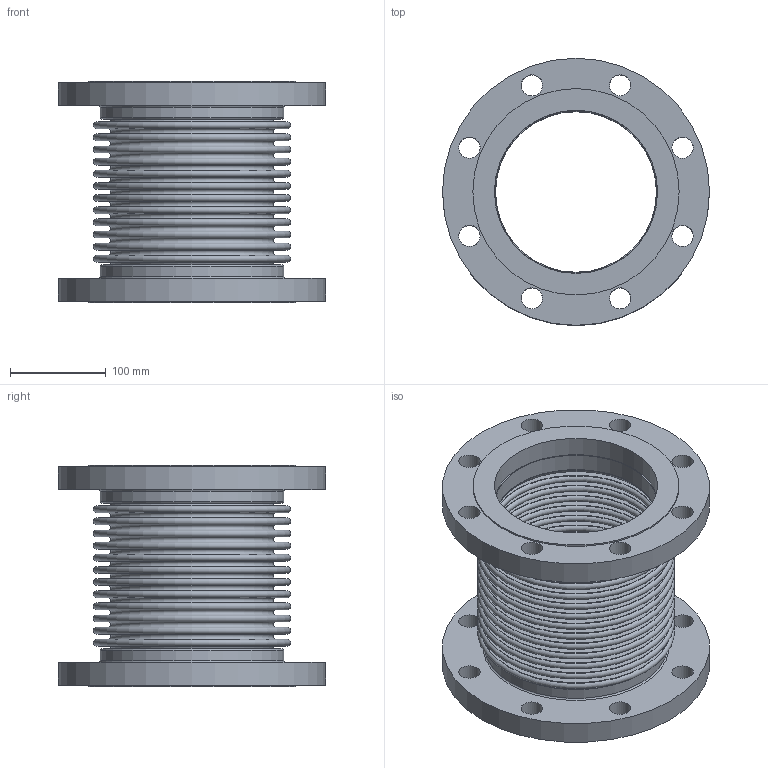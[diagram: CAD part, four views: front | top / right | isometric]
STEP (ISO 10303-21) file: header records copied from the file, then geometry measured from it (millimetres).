
FILE_DESCRIPTION(/* description */ ('EXPANSION JOINT,SINGLE, FLANGED ENDS,6 INCH NOMINAL','CAx-IF Rec.Pracs.---Representation and Presentation of Product Manufacturing Information (PMI)---4.0---2014-10-13'),/* implementation_level */ '2;1');
FILE_NAME(/* name */ 'US-06-12-85L-FLANGED ENDS.stp',/* time_stamp */ '2026-07-31T17:08:11-05:00',/* author */ ('Guadalupe'),/* organization */ (''),/* preprocessor_version */ 'ST-DEVELOPER v20.1',/* originating_system */ 'Autodesk Inventor 2026',/* authorisation */ '');
FILE_SCHEMA (('AP242_MANAGED_MODEL_BASED_3D_ENGINEERING_MIM_LF { 1 0 10303 442 2 1 4 }'));
Length unit declared in the file: inch
Products named in the file (3): 06-85L; 06-85L-02; 06-85L-01
Assembly tree (3 placements, depth 2):
  06-85L
    06-85L-02  x2
    06-85L-01
Bounding box: 279.4 x 279.4 x 231.65 mm (x, y, z)
Volume: 2152888.4 mm3; surface area: 931915.8 mm2
Topology: 5 solids, 5 shells, 144 faces, 246 edges, 164 vertices
Faces by surface type: plane 62, torus 54, cylinder 28
Full cylindrical faces by diameter (mm): 22.225 x16, 168.275 x2, 169.799 x2, 170.688 x2, 192.024 x2, 215.9 x2, 279.4 x2
Entity records: 3294 total; most frequent: DIRECTION 682, CARTESIAN_POINT 489, ORIENTED_EDGE 408, AXIS2_PLACEMENT_3D 333, EDGE_CURVE 204, EDGE_LOOP 200, CIRCLE 188, VERTEX_POINT 136
